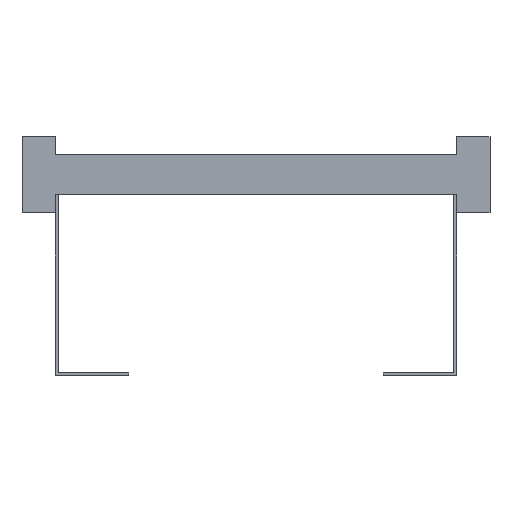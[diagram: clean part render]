
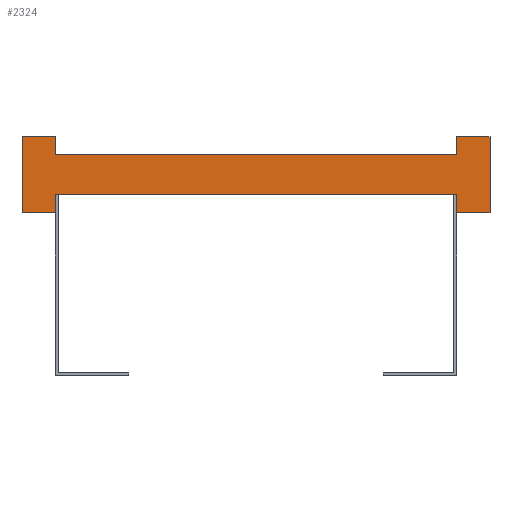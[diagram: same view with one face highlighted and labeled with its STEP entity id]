
A CAD part, front view. The second image highlights one B-rep face of the part: STEP entity #2324.
In plain terms, the highlighted planar face has unit normal (0, -1, 0).
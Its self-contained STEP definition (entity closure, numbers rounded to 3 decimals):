
#1=DIRECTION('',(0.,0.,1.));
#2=VECTOR('',#1,13.5);
#3=CARTESIAN_POINT('',(150.,0.,-28.5));
#4=LINE('',#3,#2);
#5=DIRECTION('',(0.,0.,-1.));
#6=VECTOR('',#5,13.5);
#7=CARTESIAN_POINT('',(-150.,0.,-15.));
#8=LINE('',#7,#6);
#9=DIRECTION('',(-1.,0.,0.));
#10=VECTOR('',#9,25.);
#11=CARTESIAN_POINT('',(-150.,0.,-28.5));
#12=LINE('',#11,#10);
#13=DIRECTION('',(0.,0.,1.));
#14=VECTOR('',#13,57.);
#15=CARTESIAN_POINT('',(-175.,0.,-28.5));
#16=LINE('',#15,#14);
#17=DIRECTION('',(1.,0.,0.));
#18=VECTOR('',#17,25.);
#19=CARTESIAN_POINT('',(-175.,0.,28.5));
#20=LINE('',#19,#18);
#21=DIRECTION('',(0.,0.,-1.));
#22=VECTOR('',#21,13.5);
#23=CARTESIAN_POINT('',(-150.,0.,28.5));
#24=LINE('',#23,#22);
#25=DIRECTION('',(0.,0.,1.));
#26=VECTOR('',#25,13.5);
#27=CARTESIAN_POINT('',(150.,0.,15.));
#28=LINE('',#27,#26);
#29=DIRECTION('',(1.,0.,0.));
#30=VECTOR('',#29,25.);
#31=CARTESIAN_POINT('',(150.,0.,28.5));
#32=LINE('',#31,#30);
#33=DIRECTION('',(0.,0.,-1.));
#34=VECTOR('',#33,57.);
#35=CARTESIAN_POINT('',(175.,0.,28.5));
#36=LINE('',#35,#34);
#37=DIRECTION('',(-1.,0.,0.));
#38=VECTOR('',#37,25.);
#39=CARTESIAN_POINT('',(175.,0.,-28.5));
#40=LINE('',#39,#38);
#1713=DIRECTION('',(1.,0.,0.));
#1714=VECTOR('',#1713,300.);
#1715=CARTESIAN_POINT('',(-150.,0.,-15.));
#1716=LINE('',#1715,#1714);
#1725=DIRECTION('',(1.,0.,0.));
#1726=VECTOR('',#1725,300.);
#1727=CARTESIAN_POINT('',(-150.,0.,15.));
#1728=LINE('',#1727,#1726);
#1729=CARTESIAN_POINT('',(-175.,0.,28.5));
#1730=CARTESIAN_POINT('',(-150.,0.,28.5));
#1731=VERTEX_POINT('',#1729);
#1732=VERTEX_POINT('',#1730);
#1733=CARTESIAN_POINT('',(-150.,0.,-28.5));
#1734=CARTESIAN_POINT('',(-175.,0.,-28.5));
#1735=VERTEX_POINT('',#1733);
#1736=VERTEX_POINT('',#1734);
#1737=CARTESIAN_POINT('',(175.,0.,28.5));
#1738=CARTESIAN_POINT('',(175.,0.,-28.5));
#1739=VERTEX_POINT('',#1737);
#1740=VERTEX_POINT('',#1738);
#1741=CARTESIAN_POINT('',(150.,0.,-28.5));
#1742=VERTEX_POINT('',#1741);
#1743=CARTESIAN_POINT('',(150.,0.,28.5));
#1744=VERTEX_POINT('',#1743);
#1761=CARTESIAN_POINT('',(-150.,0.,-15.));
#1763=VERTEX_POINT('',#1761);
#1765=CARTESIAN_POINT('',(-150.,0.,15.));
#1767=VERTEX_POINT('',#1765);
#1769=CARTESIAN_POINT('',(150.,0.,-15.));
#1771=VERTEX_POINT('',#1769);
#1773=CARTESIAN_POINT('',(150.,0.,15.));
#1775=VERTEX_POINT('',#1773);
#2293=CARTESIAN_POINT('',(0.,0.,0.));
#2294=DIRECTION('',(0.,1.,0.));
#2295=DIRECTION('',(1.,0.,0.));
#2296=AXIS2_PLACEMENT_3D('',#2293,#2294,#2295);
#2297=PLANE('',#2296);
#2299=ORIENTED_EDGE('',*,*,#2298,.T.);
#2301=ORIENTED_EDGE('',*,*,#2300,.F.);
#2303=ORIENTED_EDGE('',*,*,#2302,.T.);
#2305=ORIENTED_EDGE('',*,*,#2304,.T.);
#2307=ORIENTED_EDGE('',*,*,#2306,.T.);
#2309=ORIENTED_EDGE('',*,*,#2308,.T.);
#2311=ORIENTED_EDGE('',*,*,#2310,.T.);
#2313=ORIENTED_EDGE('',*,*,#2312,.T.);
#2315=ORIENTED_EDGE('',*,*,#2314,.T.);
#2317=ORIENTED_EDGE('',*,*,#2316,.T.);
#2319=ORIENTED_EDGE('',*,*,#2318,.T.);
#2321=ORIENTED_EDGE('',*,*,#2320,.T.);
#2322=EDGE_LOOP('',(#2299,#2301,#2303,#2305,#2307,#2309,#2311,#2313,#2315,#2317,
#2319,#2321));
#2323=FACE_OUTER_BOUND('',#2322,.F.);
#2324=ADVANCED_FACE('',(#2323),#2297,.F.);
#2298=EDGE_CURVE('',#1742,#1771,#4,.T.);
#2300=EDGE_CURVE('',#1763,#1771,#1716,.T.);
#2302=EDGE_CURVE('',#1763,#1735,#8,.T.);
#2304=EDGE_CURVE('',#1735,#1736,#12,.T.);
#2306=EDGE_CURVE('',#1736,#1731,#16,.T.);
#2308=EDGE_CURVE('',#1731,#1732,#20,.T.);
#2310=EDGE_CURVE('',#1732,#1767,#24,.T.);
#2312=EDGE_CURVE('',#1767,#1775,#1728,.T.);
#2314=EDGE_CURVE('',#1775,#1744,#28,.T.);
#2316=EDGE_CURVE('',#1744,#1739,#32,.T.);
#2318=EDGE_CURVE('',#1739,#1740,#36,.T.);
#2320=EDGE_CURVE('',#1740,#1742,#40,.T.);
